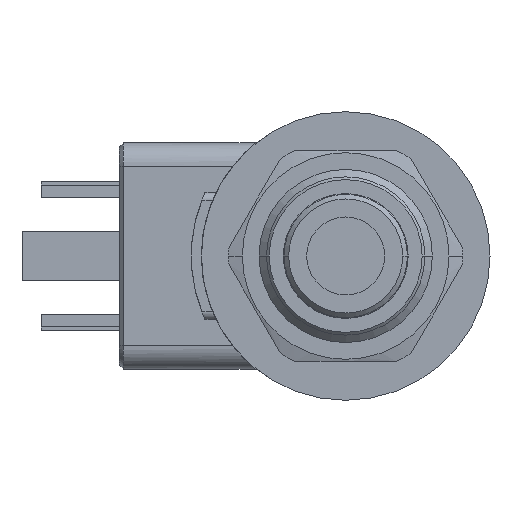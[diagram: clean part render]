
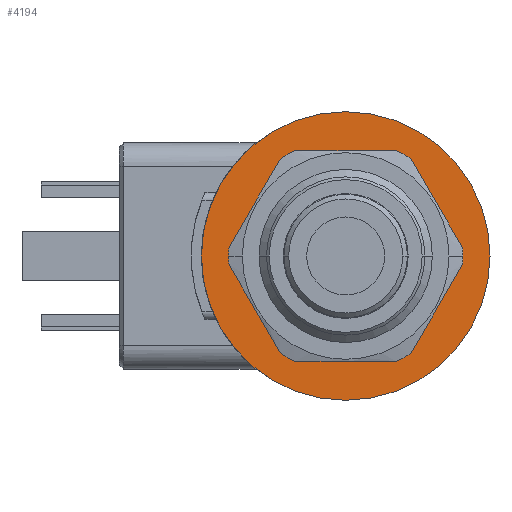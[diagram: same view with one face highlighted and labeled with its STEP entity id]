
A CAD part, left-side view. The second image highlights one B-rep face of the part: STEP entity #4194.
In plain terms, the highlighted planar face has unit normal (-1, 0, 0).
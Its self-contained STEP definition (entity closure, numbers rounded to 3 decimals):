
#378=CARTESIAN_POINT('',(0.,0.,0.));
#379=DIRECTION('',(-1.,0.,0.));
#380=DIRECTION('',(0.,1.,0.));
#381=AXIS2_PLACEMENT_3D('',#378,#379,#380);
#383=CARTESIAN_POINT('',(0.,0.,0.));
#384=DIRECTION('',(1.,0.,0.));
#385=DIRECTION('',(0.,1.,0.));
#386=AXIS2_PLACEMENT_3D('',#383,#384,#385);
#388=CARTESIAN_POINT('',(0.,0.,0.));
#389=DIRECTION('',(1.,0.,0.));
#390=DIRECTION('',(0.,1.,0.));
#391=AXIS2_PLACEMENT_3D('',#388,#389,#390);
#393=CARTESIAN_POINT('',(0.,0.,0.));
#394=DIRECTION('',(1.,0.,0.));
#395=DIRECTION('',(0.,-1.,0.));
#396=AXIS2_PLACEMENT_3D('',#393,#394,#395);
#3444=CARTESIAN_POINT('',(0.,-18.5,0.));
#3446=VERTEX_POINT('',#3444);
#3611=CARTESIAN_POINT('',(0.,18.5,0.));
#3613=VERTEX_POINT('',#3611);
#3912=CARTESIAN_POINT('',(0.,13.25,0.));
#3913=CARTESIAN_POINT('',(0.,-13.25,0.));
#3914=VERTEX_POINT('',#3912);
#3915=VERTEX_POINT('',#3913);
#4179=CARTESIAN_POINT('',(0.,0.,0.));
#4180=DIRECTION('',(1.,0.,0.));
#4181=DIRECTION('',(0.,-1.,0.));
#4182=AXIS2_PLACEMENT_3D('',#4179,#4180,#4181);
#4183=PLANE('',#4182);
#4184=ORIENTED_EDGE('',*,*,#4154,.F.);
#4185=ORIENTED_EDGE('',*,*,#4019,.T.);
#4186=EDGE_LOOP('',(#4184,#4185));
#4187=FACE_OUTER_BOUND('',#4186,.F.);
#4189=ORIENTED_EDGE('',*,*,#4188,.F.);
#4191=ORIENTED_EDGE('',*,*,#4190,.F.);
#4192=EDGE_LOOP('',(#4189,#4191));
#4193=FACE_BOUND('',#4192,.F.);
#382=CIRCLE('',#381,18.5);
#387=CIRCLE('',#386,18.5);
#392=CIRCLE('',#391,13.25);
#397=CIRCLE('',#396,13.25);
#4019=EDGE_CURVE('',#3613,#3446,#387,.T.);
#4154=EDGE_CURVE('',#3613,#3446,#382,.T.);
#4188=EDGE_CURVE('',#3914,#3915,#392,.T.);
#4190=EDGE_CURVE('',#3915,#3914,#397,.T.);
#4194=ADVANCED_FACE('',(#4187,#4193),#4183,.F.);
